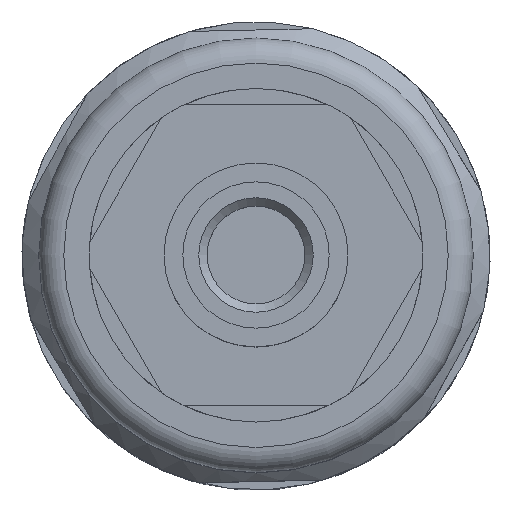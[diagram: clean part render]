
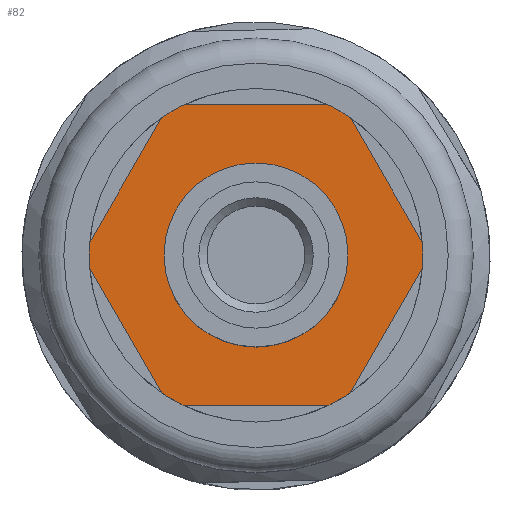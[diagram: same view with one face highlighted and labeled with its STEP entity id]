
A CAD part, top view. The second image highlights one B-rep face of the part: STEP entity #82.
In plain terms, the highlighted planar face has unit normal (0, 0, 1).
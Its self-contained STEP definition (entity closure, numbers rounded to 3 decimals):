
#82=ADVANCED_FACE('',(#157,#158),#159,.F.);
#157=FACE_BOUND('',#314,.T.);
#158=FACE_OUTER_BOUND('',#315,.T.);
#159=PLANE('',#316);
#314=EDGE_LOOP('',(#500));
#315=EDGE_LOOP('',(#501,#502,#503,#504,#505,#506,#507,#508,#509,#510,#511,#512));
#316=AXIS2_PLACEMENT_3D('',#513,#514,#515);
#500=ORIENTED_EDGE('',*,*,#970,.T.);
#501=ORIENTED_EDGE('',*,*,#971,.F.);
#502=ORIENTED_EDGE('',*,*,#972,.F.);
#503=ORIENTED_EDGE('',*,*,#973,.F.);
#504=ORIENTED_EDGE('',*,*,#974,.F.);
#505=ORIENTED_EDGE('',*,*,#975,.F.);
#506=ORIENTED_EDGE('',*,*,#976,.F.);
#507=ORIENTED_EDGE('',*,*,#977,.F.);
#508=ORIENTED_EDGE('',*,*,#978,.F.);
#509=ORIENTED_EDGE('',*,*,#979,.F.);
#510=ORIENTED_EDGE('',*,*,#980,.F.);
#511=ORIENTED_EDGE('',*,*,#981,.F.);
#512=ORIENTED_EDGE('',*,*,#982,.F.);
#513=CARTESIAN_POINT('',(-15.588,0.,72.7));
#514=DIRECTION('',(0.0,0.,-1.0));
#515=DIRECTION('',(0.0,1.0,0.));
#970=EDGE_CURVE('',#1134,#1134,#1135,.T.);
#971=EDGE_CURVE('',#1136,#1137,#1138,.T.);
#972=EDGE_CURVE('',#1139,#1136,#1140,.T.);
#973=EDGE_CURVE('',#1141,#1139,#1142,.T.);
#974=EDGE_CURVE('',#1143,#1141,#1144,.T.);
#975=EDGE_CURVE('',#1145,#1143,#1146,.T.);
#976=EDGE_CURVE('',#1147,#1145,#1148,.T.);
#977=EDGE_CURVE('',#1149,#1147,#1150,.T.);
#978=EDGE_CURVE('',#1151,#1149,#1152,.T.);
#979=EDGE_CURVE('',#1153,#1151,#1154,.T.);
#980=EDGE_CURVE('',#1155,#1153,#1156,.T.);
#981=EDGE_CURVE('',#1157,#1155,#1158,.T.);
#982=EDGE_CURVE('',#1137,#1157,#1159,.T.);
#1134=VERTEX_POINT('',#1417);
#1135=CIRCLE('',#1418,11.0);
#1136=VERTEX_POINT('',#1419);
#1137=VERTEX_POINT('',#1420);
#1138=LINE('',#1421,#1422);
#1139=VERTEX_POINT('',#1423);
#1140=CIRCLE('',#1424,19.947);
#1141=VERTEX_POINT('',#1425);
#1142=LINE('',#1426,#1427);
#1143=VERTEX_POINT('',#1428);
#1144=CIRCLE('',#1429,19.947);
#1145=VERTEX_POINT('',#1430);
#1146=LINE('',#1431,#1432);
#1147=VERTEX_POINT('',#1433);
#1148=CIRCLE('',#1434,19.947);
#1149=VERTEX_POINT('',#1435);
#1150=LINE('',#1436,#1437);
#1151=VERTEX_POINT('',#1438);
#1152=CIRCLE('',#1439,19.947);
#1153=VERTEX_POINT('',#1440);
#1154=LINE('',#1441,#1442);
#1155=VERTEX_POINT('',#1443);
#1156=CIRCLE('',#1444,19.947);
#1157=VERTEX_POINT('',#1445);
#1158=LINE('',#1446,#1447);
#1159=CIRCLE('',#1448,19.947);
#1417=CARTESIAN_POINT('',(0.0,11.0,72.7));
#1418=AXIS2_PLACEMENT_3D('',#1758,#1759,#1760);
#1419=CARTESIAN_POINT('',(-8.596,18.0,72.7));
#1420=CARTESIAN_POINT('',(8.596,18.0,72.7));
#1421=CARTESIAN_POINT('',(-15.588,18.0,72.7));
#1422=VECTOR('',#1761,1.0);
#1423=CARTESIAN_POINT('',(-11.29,16.445,72.7));
#1424=AXIS2_PLACEMENT_3D('',#1762,#1763,#1764);
#1425=CARTESIAN_POINT('',(-19.887,1.555,72.7));
#1426=CARTESIAN_POINT('',(-19.486,2.25,72.7));
#1427=VECTOR('',#1765,1.0);
#1428=CARTESIAN_POINT('',(-19.887,-1.555,72.7));
#1429=AXIS2_PLACEMENT_3D('',#1766,#1767,#1768);
#1430=CARTESIAN_POINT('',(-11.29,-16.445,72.7));
#1431=CARTESIAN_POINT('',(-19.486,-2.25,72.7));
#1432=VECTOR('',#1769,1.0);
#1433=CARTESIAN_POINT('',(-8.596,-18.0,72.7));
#1434=AXIS2_PLACEMENT_3D('',#1770,#1771,#1772);
#1435=CARTESIAN_POINT('',(8.596,-18.0,72.7));
#1436=CARTESIAN_POINT('',(-15.588,-18.0,72.7));
#1437=VECTOR('',#1773,1.0);
#1438=CARTESIAN_POINT('',(11.29,-16.445,72.7));
#1439=AXIS2_PLACEMENT_3D('',#1774,#1775,#1776);
#1440=CARTESIAN_POINT('',(19.887,-1.555,72.7));
#1441=CARTESIAN_POINT('',(11.691,-15.75,72.7));
#1442=VECTOR('',#1777,1.0);
#1443=CARTESIAN_POINT('',(19.887,1.555,72.7));
#1444=AXIS2_PLACEMENT_3D('',#1778,#1779,#1780);
#1445=CARTESIAN_POINT('',(11.29,16.445,72.7));
#1446=CARTESIAN_POINT('',(11.691,15.75,72.7));
#1447=VECTOR('',#1781,1.0);
#1448=AXIS2_PLACEMENT_3D('',#1782,#1783,#1784);
#1758=CARTESIAN_POINT('',(0.0,0.,72.7));
#1759=DIRECTION('',(0.0,0.,-1.0));
#1760=DIRECTION('',(0.0,1.0,0.));
#1761=DIRECTION('',(1.0,0.,0.));
#1762=CARTESIAN_POINT('',(0.0,0.,72.7));
#1763=DIRECTION('',(0.0,0.,-1.0));
#1764=DIRECTION('',(0.0,1.0,0.));
#1765=DIRECTION('',(0.5,0.866,0.));
#1766=CARTESIAN_POINT('',(0.0,0.,72.7));
#1767=DIRECTION('',(0.0,0.,-1.0));
#1768=DIRECTION('',(0.0,1.0,0.));
#1769=DIRECTION('',(-0.5,0.866,0.));
#1770=CARTESIAN_POINT('',(0.0,0.,72.7));
#1771=DIRECTION('',(0.0,0.,-1.0));
#1772=DIRECTION('',(0.0,1.0,0.));
#1773=DIRECTION('',(-1.0,0.,0.));
#1774=CARTESIAN_POINT('',(0.0,0.,72.7));
#1775=DIRECTION('',(0.0,0.,-1.0));
#1776=DIRECTION('',(0.0,1.0,0.));
#1777=DIRECTION('',(-0.5,-0.866,0.));
#1778=CARTESIAN_POINT('',(0.0,0.,72.7));
#1779=DIRECTION('',(0.0,0.,-1.0));
#1780=DIRECTION('',(0.0,1.0,0.));
#1781=DIRECTION('',(0.5,-0.866,0.));
#1782=CARTESIAN_POINT('',(0.0,0.,72.7));
#1783=DIRECTION('',(0.0,0.,-1.0));
#1784=DIRECTION('',(0.0,1.0,0.));
